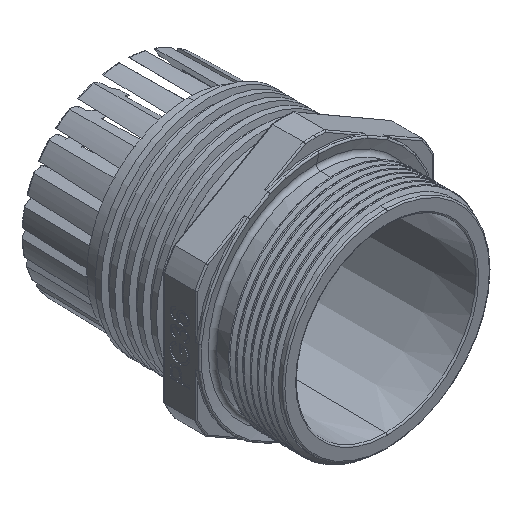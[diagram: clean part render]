
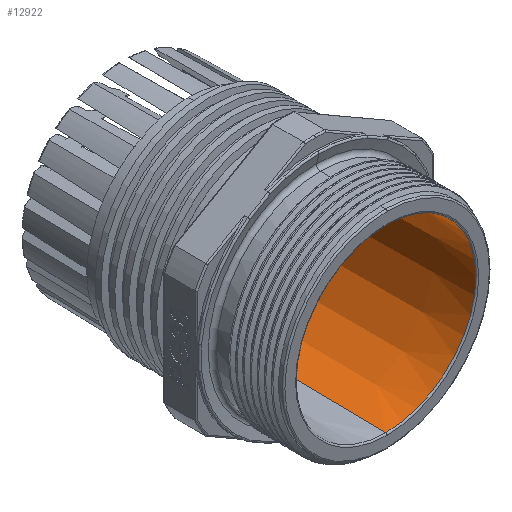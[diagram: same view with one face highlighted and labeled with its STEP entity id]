
A CAD part, isometric view. The second image highlights one B-rep face of the part: STEP entity #12922.
In plain terms, the highlighted conical face has half-angle 1 degrees and reference radius 18.843 mm.
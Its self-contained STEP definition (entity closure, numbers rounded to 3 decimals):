
#285 = DIRECTION ( 'NONE',  ( 0., 0., -1. ) ) ;
#1003 = VECTOR ( 'NONE', #19946, 1000. ) ;
#1762 = LINE ( 'NONE', #1995, #5212 ) ;
#1995 = CARTESIAN_POINT ( 'NONE',  ( 0., 0., 18.843 ) ) ;
#3132 = EDGE_CURVE ( 'NONE', #9603, #10910, #1762, .T. ) ;
#4518 = DIRECTION ( 'NONE',  ( 0., -1., 0. ) ) ;
#5212 = VECTOR ( 'NONE', #9004, 1000. ) ;
#6029 = ORIENTED_EDGE ( 'NONE', *, *, #7033, .T. ) ;
#6344 = CARTESIAN_POINT ( 'NONE',  ( 0., 0.295, -18.838 ) ) ;
#6427 = CIRCLE ( 'NONE', #18193, 18.25 ) ;
#6586 = CARTESIAN_POINT ( 'NONE',  ( 0., 0.295, 0. ) ) ;
#7033 = EDGE_CURVE ( 'NONE', #11643, #10910, #8385, .T. ) ;
#7572 = EDGE_CURVE ( 'NONE', #14341, #9603, #6427, .T. ) ;
#8124 = FACE_OUTER_BOUND ( 'NONE', #18134, .T. ) ;
#8184 = LINE ( 'NONE', #14306, #1003 ) ;
#8385 = CIRCLE ( 'NONE', #11502, 18.838 ) ;
#9004 = DIRECTION ( 'NONE',  ( 0., -1., 0.017 ) ) ;
#9603 = VERTEX_POINT ( 'NONE', #18107 ) ;
#10133 = ORIENTED_EDGE ( 'NONE', *, *, #18044, .T. ) ;
#10910 = VERTEX_POINT ( 'NONE', #17023 ) ;
#11502 = AXIS2_PLACEMENT_3D ( 'NONE', #6586, #4518, #19592 ) ;
#11643 = VERTEX_POINT ( 'NONE', #6344 ) ;
#12563 = DIRECTION ( 'NONE',  ( 0., -1., 0. ) ) ;
#12922 = ADVANCED_FACE ( 'NONE', ( #8124 ), #18315, .F. ) ;
#13007 = ORIENTED_EDGE ( 'NONE', *, *, #7572, .F. ) ;
#14306 = CARTESIAN_POINT ( 'NONE',  ( 0., 0., -18.843 ) ) ;
#14341 = VERTEX_POINT ( 'NONE', #16383 ) ;
#14410 = DIRECTION ( 'NONE',  ( 0., 0., -1. ) ) ;
#14539 = CARTESIAN_POINT ( 'NONE',  ( 0., 34., 0. ) ) ;
#15269 = CARTESIAN_POINT ( 'NONE',  ( 0., 0., 0. ) ) ;
#15587 = AXIS2_PLACEMENT_3D ( 'NONE', #15269, #17452, #285 ) ;
#16383 = CARTESIAN_POINT ( 'NONE',  ( 0., 34., -18.25 ) ) ;
#17023 = CARTESIAN_POINT ( 'NONE',  ( 0., 0.295, 18.838 ) ) ;
#17452 = DIRECTION ( 'NONE',  ( 0., -1., 0. ) ) ;
#18044 = EDGE_CURVE ( 'NONE', #14341, #11643, #8184, .T. ) ;
#18107 = CARTESIAN_POINT ( 'NONE',  ( 0., 34., 18.25 ) ) ;
#18134 = EDGE_LOOP ( 'NONE', ( #18215, #13007, #10133, #6029 ) ) ;
#18193 = AXIS2_PLACEMENT_3D ( 'NONE', #14539, #12563, #14410 ) ;
#18215 = ORIENTED_EDGE ( 'NONE', *, *, #3132, .F. ) ;
#18315 = CONICAL_SURFACE ( 'NONE', #15587, 18.843, 0.017 ) ;
#19592 = DIRECTION ( 'NONE',  ( 0., 0., 1. ) ) ;
#19946 = DIRECTION ( 'NONE',  ( 0., -1., -0.017 ) ) ;
